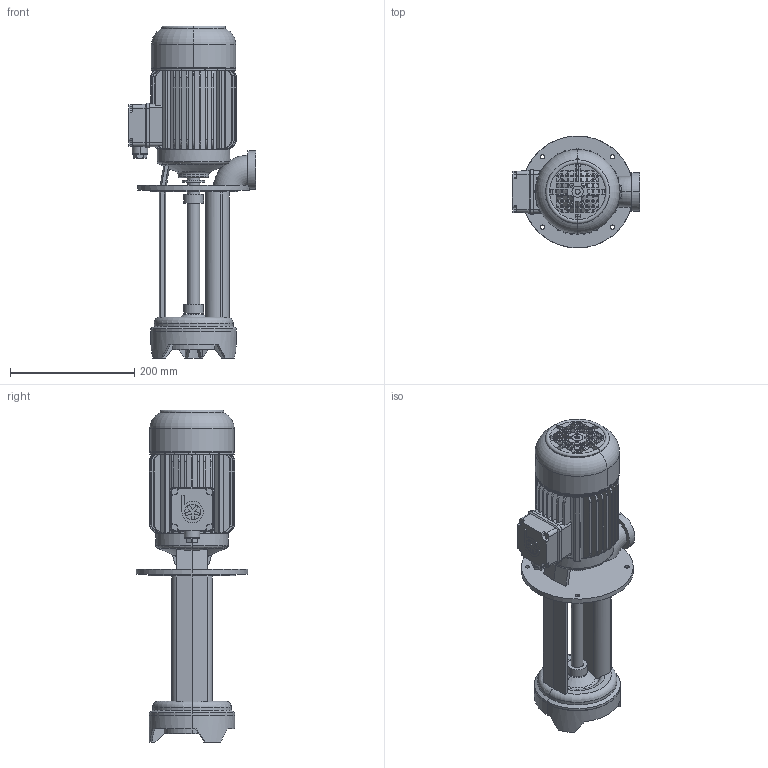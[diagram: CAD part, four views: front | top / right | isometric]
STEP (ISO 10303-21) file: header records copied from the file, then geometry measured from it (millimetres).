
FILE_DESCRIPTION(('no description'),'unknown implementation level');
FILE_NAME('TA160_270_2.stp',' ',('K. H. Brinkmann GmbH & Co. KG'),('CADClick - KiM GmbH - www.kimweb.de'),'unknown preprocess','ACIS','unknown authorization');
FILE_SCHEMA(('automotive_design'));
Length unit declared in the file: millimetre
Products named in the file (3): 1; 2; 3
Bounding box: 205 x 180 x 534 mm (x, y, z)
Volume: 4192581.9 mm3; surface area: 539990.1 mm2
Topology: 3 solids, 3 shells, 855 faces, 2369 edges, 1546 vertices
Faces by surface type: plane 507, cylinder 190, torus 110, cone 48
Entity records: 59258 total; most frequent: CARTESIAN_POINT 10565, STYLED_ITEM 4773, PRESENTATION_STYLE_ASSIGNMENT 4773, COLOUR_RGB 4773, ORIENTED_EDGE 4738, DIRECTION 4513, EDGE_CURVE 2369, CURVE_STYLE 2369
